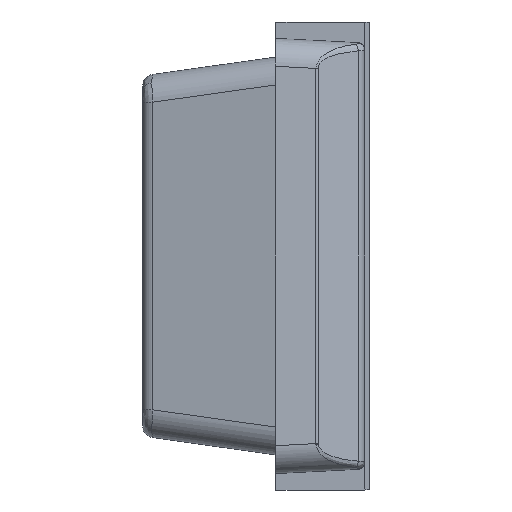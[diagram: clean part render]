
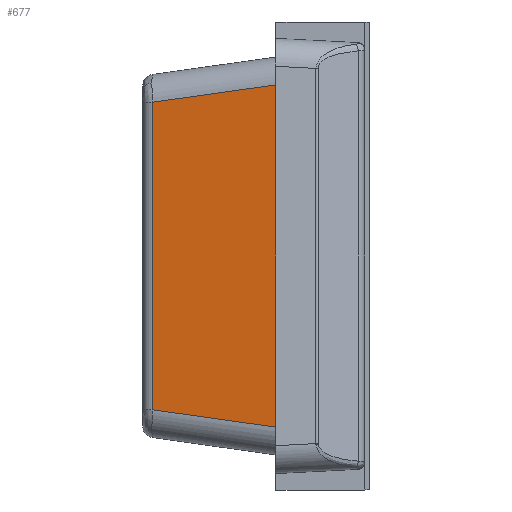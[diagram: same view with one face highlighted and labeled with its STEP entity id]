
A CAD part, left-side view. The second image highlights one B-rep face of the part: STEP entity #677.
In plain terms, the highlighted planar face has unit normal (-0.99, 0.139, 0).
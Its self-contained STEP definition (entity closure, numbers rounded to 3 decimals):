
#70 = VECTOR ( 'NONE', #1704, 1000. ) ;
#149 = CARTESIAN_POINT ( 'NONE',  ( -10.101, 2.904, 4.674 ) ) ;
#290 = VECTOR ( 'NONE', #2109, 1000. ) ;
#306 = VECTOR ( 'NONE', #2818, 1000. ) ;
#527 = CARTESIAN_POINT ( 'NONE',  ( -10.471, 0.269, 6.388 ) ) ;
#584 = VERTEX_POINT ( 'NONE', #149 ) ;
#640 = CARTESIAN_POINT ( 'NONE',  ( -10.497, 0.087, 5.07 ) ) ;
#677 = ADVANCED_FACE ( 'NONE', ( #2820 ), #2529, .T. ) ;
#847 = CARTESIAN_POINT ( 'NONE',  ( -10.101, 2.904, -2.461 ) ) ;
#947 = VERTEX_POINT ( 'NONE', #1111 ) ;
#1111 = CARTESIAN_POINT ( 'NONE',  ( -10.101, 2.904, -1.897 ) ) ;
#1254 = VECTOR ( 'NONE', #3349, 1000. ) ;
#1428 = ORIENTED_EDGE ( 'NONE', *, *, #2762, .T. ) ;
#1618 = LINE ( 'NONE', #1974, #70 ) ;
#1704 = DIRECTION ( 'NONE',  ( 0., 0., 1. ) ) ;
#1776 = ORIENTED_EDGE ( 'NONE', *, *, #3274, .T. ) ;
#1844 = EDGE_LOOP ( 'NONE', ( #2714, #2076, #1776, #1428 ) ) ;
#1974 = CARTESIAN_POINT ( 'NONE',  ( -10.471, 0.269, 6.388 ) ) ;
#1982 = VERTEX_POINT ( 'NONE', #2656 ) ;
#2052 = CARTESIAN_POINT ( 'NONE',  ( -10.482, 0.189, -2.279 ) ) ;
#2068 = LINE ( 'NONE', #640, #1254 ) ;
#2076 = ORIENTED_EDGE ( 'NONE', *, *, #2346, .T. ) ;
#2109 = DIRECTION ( 'NONE',  ( 0., 0., -1. ) ) ;
#2346 = EDGE_CURVE ( 'NONE', #947, #3353, #2562, .T. ) ;
#2529 = PLANE ( 'NONE',  #3416 ) ;
#2562 = LINE ( 'NONE', #2052, #306 ) ;
#2602 = CARTESIAN_POINT ( 'NONE',  ( -10.471, 0.269, -2.268 ) ) ;
#2609 = DIRECTION ( 'NONE',  ( -0.99, 0.139, 0. ) ) ;
#2656 = CARTESIAN_POINT ( 'NONE',  ( -10.471, 0.269, 5.044 ) ) ;
#2714 = ORIENTED_EDGE ( 'NONE', *, *, #2860, .T. ) ;
#2762 = EDGE_CURVE ( 'NONE', #1982, #584, #2068, .T. ) ;
#2818 = DIRECTION ( 'NONE',  ( -0.138, -0.981, -0.138 ) ) ;
#2820 = FACE_OUTER_BOUND ( 'NONE', #1844, .T. ) ;
#2860 = EDGE_CURVE ( 'NONE', #584, #947, #3305, .T. ) ;
#3040 = DIRECTION ( 'NONE',  ( -0.139, -0.99, 0. ) ) ;
#3274 = EDGE_CURVE ( 'NONE', #3353, #1982, #1618, .T. ) ;
#3305 = LINE ( 'NONE', #847, #290 ) ;
#3349 = DIRECTION ( 'NONE',  ( 0.138, 0.981, -0.138 ) ) ;
#3353 = VERTEX_POINT ( 'NONE', #2602 ) ;
#3416 = AXIS2_PLACEMENT_3D ( 'NONE', #527, #2609, #3040 ) ;
